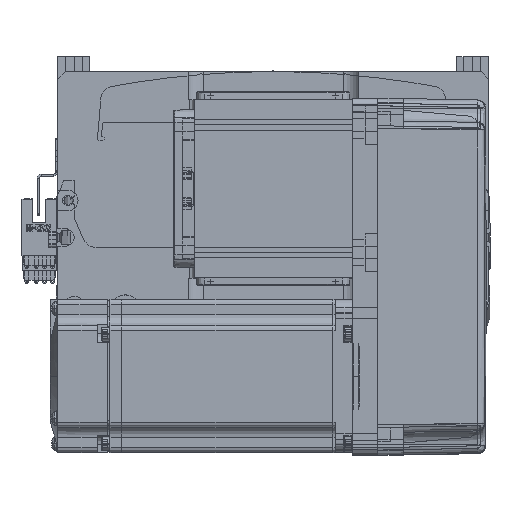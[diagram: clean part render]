
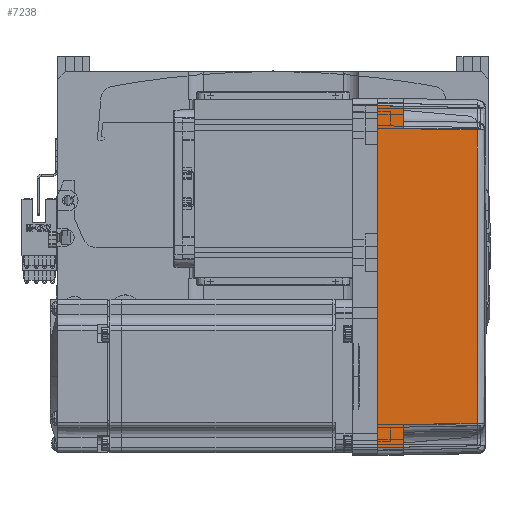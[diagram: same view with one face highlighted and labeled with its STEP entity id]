
A CAD part, top view. The second image highlights one B-rep face of the part: STEP entity #7238.
In plain terms, the highlighted planar face has unit normal (0.018, 0, 1) as drawn and (0, 1, 0.017) by its records, which use the part's own axes.
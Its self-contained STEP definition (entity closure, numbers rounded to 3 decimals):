
#944 = VERTEX_POINT ( 'NONE', #3692 ) ;
#1125 = EDGE_CURVE ( 'NONE', #47527, #58032, #62246, .T. ) ;
#1339 = LINE ( 'NONE', #3830, #55296 ) ;
#1623 = CARTESIAN_POINT ( 'NONE',  ( -58., 35.825, 10. ) ) ;
#3692 = CARTESIAN_POINT ( 'NONE',  ( 58., 35.825, 10. ) ) ;
#3830 = CARTESIAN_POINT ( 'NONE',  ( 70., 35.825, 10. ) ) ;
#4911 = CARTESIAN_POINT ( 'NONE',  ( 67.001, 36.001, -0.052 ) ) ;
#5423 = VECTOR ( 'NONE', #14780, 1000. ) ;
#6027 = VECTOR ( 'NONE', #49859, 1000. ) ;
#6107 = CARTESIAN_POINT ( 'NONE',  ( 66.826, 35.825, 10. ) ) ;
#6127 = B_SPLINE_CURVE_WITH_KNOTS ( 'NONE', 3,
 ( #49380, #16029, #49135, #43442 ),
 .UNSPECIFIED., .F., .F.,
 ( 4, 4 ),
 ( 0., 1. ),
 .UNSPECIFIED. ) ;
#6561 = CARTESIAN_POINT ( 'NONE',  ( -58., 35.825, 10. ) ) ;
#7238 = ADVANCED_FACE ( 'NONE', ( #57571 ), #48014, .T. ) ;
#8262 = CARTESIAN_POINT ( 'NONE',  ( 70., 36., 0. ) ) ;
#9818 = LINE ( 'NONE', #53607, #5423 ) ;
#11058 = ORIENTED_EDGE ( 'NONE', *, *, #41820, .T. ) ;
#12031 = VERTEX_POINT ( 'NONE', #62370 ) ;
#13459 = ORIENTED_EDGE ( 'NONE', *, *, #41789, .T. ) ;
#14511 = CARTESIAN_POINT ( 'NONE',  ( 67., 36., 0. ) ) ;
#14780 = DIRECTION ( 'NONE',  ( 1., 0., 0. ) ) ;
#16029 = CARTESIAN_POINT ( 'NONE',  ( -19.165, 35.316, 39.181 ) ) ;
#17733 = CARTESIAN_POINT ( 'NONE',  ( -57.495, 35.32, 38.985 ) ) ;
#18999 = VECTOR ( 'NONE', #61971, 1000. ) ;
#22365 = CARTESIAN_POINT ( 'NONE',  ( 57.495, 35.32, 38.985 ) ) ;
#23686 = ORIENTED_EDGE ( 'NONE', *, *, #37598, .T. ) ;
#25009 = VECTOR ( 'NONE', #43687, 1000. ) ;
#25238 = DIRECTION ( 'NONE',  ( 0., 1., 0.017 ) ) ;
#30838 = VECTOR ( 'NONE', #59770, 1000. ) ;
#32844 = EDGE_CURVE ( 'NONE', #60291, #73336, #62778, .T. ) ;
#34046 = LINE ( 'NONE', #22365, #18999 ) ;
#36063 = LINE ( 'NONE', #55556, #6027 ) ;
#36288 = CARTESIAN_POINT ( 'NONE',  ( -66.826, 35.825, 10. ) ) ;
#37380 = ORIENTED_EDGE ( 'NONE', *, *, #67503, .T. ) ;
#37505 = EDGE_CURVE ( 'NONE', #39760, #47527, #45853, .T. ) ;
#37551 = VERTEX_POINT ( 'NONE', #36288 ) ;
#37598 = EDGE_CURVE ( 'NONE', #39760, #37551, #36063, .T. ) ;
#39145 = ORIENTED_EDGE ( 'NONE', *, *, #49404, .T. ) ;
#39760 = VERTEX_POINT ( 'NONE', #47387 ) ;
#41789 = EDGE_CURVE ( 'NONE', #37551, #60291, #9818, .T. ) ;
#41820 = EDGE_CURVE ( 'NONE', #73336, #12031, #6127, .T. ) ;
#43442 = CARTESIAN_POINT ( 'NONE',  ( 57.495, 35.32, 38.985 ) ) ;
#43687 = DIRECTION ( 'NONE',  ( -0.017, -0.017, 1. ) ) ;
#45820 = DIRECTION ( 'NONE',  ( 0.017, -0.017, 1. ) ) ;
#45853 = LINE ( 'NONE', #71093, #30838 ) ;
#46249 = ORIENTED_EDGE ( 'NONE', *, *, #32844, .T. ) ;
#47387 = CARTESIAN_POINT ( 'NONE',  ( -67., 36., 0. ) ) ;
#47527 = VERTEX_POINT ( 'NONE', #14511 ) ;
#48014 = PLANE ( 'NONE',  #50169 ) ;
#49135 = CARTESIAN_POINT ( 'NONE',  ( 19.165, 35.316, 39.181 ) ) ;
#49380 = CARTESIAN_POINT ( 'NONE',  ( -57.495, 35.32, 38.985 ) ) ;
#49404 = EDGE_CURVE ( 'NONE', #12031, #944, #34046, .T. ) ;
#49859 = DIRECTION ( 'NONE',  ( 0.017, -0.017, 1. ) ) ;
#50169 = AXIS2_PLACEMENT_3D ( 'NONE', #8262, #25238, #53958 ) ;
#53607 = CARTESIAN_POINT ( 'NONE',  ( 70., 35.825, 10. ) ) ;
#53958 = DIRECTION ( 'NONE',  ( 0., -0.017, 1. ) ) ;
#54641 = ORIENTED_EDGE ( 'NONE', *, *, #37505, .F. ) ;
#55296 = VECTOR ( 'NONE', #65860, 1000. ) ;
#55556 = CARTESIAN_POINT ( 'NONE',  ( -67., 36., 0. ) ) ;
#57315 = ORIENTED_EDGE ( 'NONE', *, *, #1125, .F. ) ;
#57571 = FACE_OUTER_BOUND ( 'NONE', #71375, .T. ) ;
#58032 = VERTEX_POINT ( 'NONE', #6107 ) ;
#59770 = DIRECTION ( 'NONE',  ( 1., 0., 0. ) ) ;
#60291 = VERTEX_POINT ( 'NONE', #1623 ) ;
#61971 = DIRECTION ( 'NONE',  ( 0.017, 0.017, -1. ) ) ;
#62246 = LINE ( 'NONE', #4911, #25009 ) ;
#62370 = CARTESIAN_POINT ( 'NONE',  ( 57.495, 35.32, 38.985 ) ) ;
#62778 = LINE ( 'NONE', #6561, #72467 ) ;
#65860 = DIRECTION ( 'NONE',  ( 1., 0., 0. ) ) ;
#67503 = EDGE_CURVE ( 'NONE', #944, #58032, #1339, .T. ) ;
#71093 = CARTESIAN_POINT ( 'NONE',  ( 0., 36., 0. ) ) ;
#71375 = EDGE_LOOP ( 'NONE', ( #23686, #13459, #46249, #11058, #39145, #37380, #57315, #54641 ) ) ;
#72467 = VECTOR ( 'NONE', #45820, 1000. ) ;
#73336 = VERTEX_POINT ( 'NONE', #17733 ) ;
